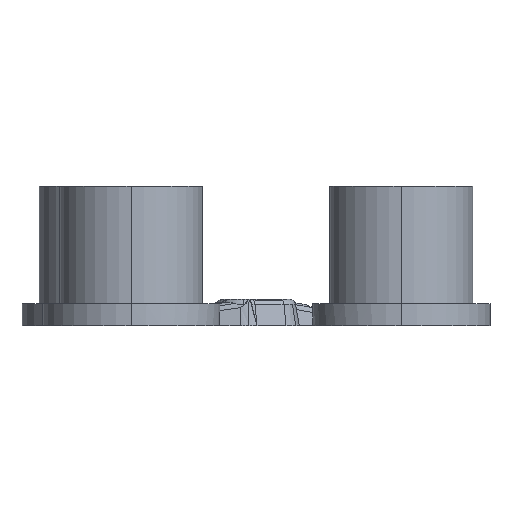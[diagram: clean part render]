
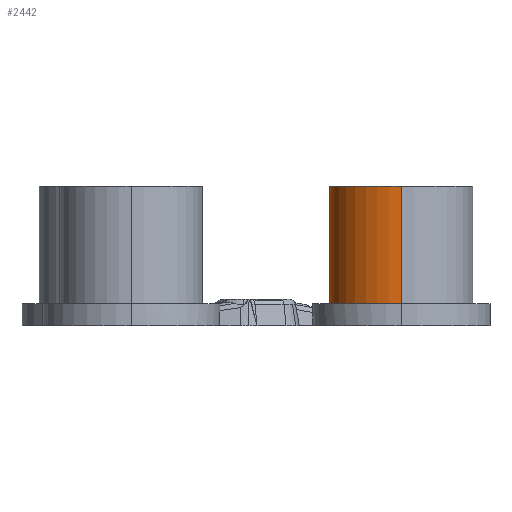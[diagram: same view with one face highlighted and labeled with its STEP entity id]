
A CAD part, left-side view. The second image highlights one B-rep face of the part: STEP entity #2442.
In plain terms, the highlighted cylindrical face has radius 8.191 mm (diameter 16.383 mm), a partial arc.
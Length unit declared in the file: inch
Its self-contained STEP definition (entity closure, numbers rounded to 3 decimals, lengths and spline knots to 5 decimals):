
#2401=CARTESIAN_POINT('',(7.29351,4.90013,0.0));
#2402=DIRECTION('',(0.0,0.0,1.0));
#2403=DIRECTION('',(1.0,0.0,0.0));
#2404=AXIS2_PLACEMENT_3D('',#2401,#2402,#2403);
#2405=CYLINDRICAL_SURFACE('',#2404,0.3225);
#2406=CARTESIAN_POINT('',(7.61601,4.90013,0.1));
#2407=VERTEX_POINT('',#2406);
#2408=CARTESIAN_POINT('',(7.61601,4.90013,0.63));
#2409=VERTEX_POINT('',#2408);
#2410=CARTESIAN_POINT('',(7.61601,4.90013,0.1));
#2411=DIRECTION('',(0.0,0.0,1.0));
#2412=VECTOR('',#2411,0.53);
#2413=LINE('',#2410,#2412);
#2414=EDGE_CURVE('',#2407,#2409,#2413,.T.);
#2415=ORIENTED_EDGE('',*,*,#2414,.F.);
#2416=CARTESIAN_POINT('',(6.97101,4.90013,0.1));
#2417=VERTEX_POINT('',#2416);
#2418=CARTESIAN_POINT('',(7.29351,4.90013,0.1));
#2419=DIRECTION('',(0.0,0.0,-1.0));
#2420=DIRECTION('',(1.0,0.0,0.0));
#2421=AXIS2_PLACEMENT_3D('',#2418,#2419,#2420);
#2422=CIRCLE('',#2421,0.3225);
#2423=EDGE_CURVE('',#2417,#2407,#2422,.T.);
#2424=ORIENTED_EDGE('',*,*,#2423,.F.);
#2425=CARTESIAN_POINT('',(6.97101,4.90013,0.63));
#2426=VERTEX_POINT('',#2425);
#2427=CARTESIAN_POINT('',(6.97101,4.90013,0.63));
#2428=DIRECTION('',(0.0,0.0,-1.0));
#2429=VECTOR('',#2428,0.53);
#2430=LINE('',#2427,#2429);
#2431=EDGE_CURVE('',#2426,#2417,#2430,.T.);
#2432=ORIENTED_EDGE('',*,*,#2431,.F.);
#2433=CARTESIAN_POINT('',(7.29351,4.90013,0.63));
#2434=DIRECTION('',(0.0,0.0,-1.0));
#2435=DIRECTION('',(1.0,0.0,0.0));
#2436=AXIS2_PLACEMENT_3D('',#2433,#2434,#2435);
#2437=CIRCLE('',#2436,0.3225);
#2438=EDGE_CURVE('',#2426,#2409,#2437,.T.);
#2439=ORIENTED_EDGE('',*,*,#2438,.T.);
#2440=EDGE_LOOP('',(#2415,#2424,#2432,#2439));
#2441=FACE_OUTER_BOUND('',#2440,.T.);
#2442=ADVANCED_FACE('',(#2441),#2405,.T.);
